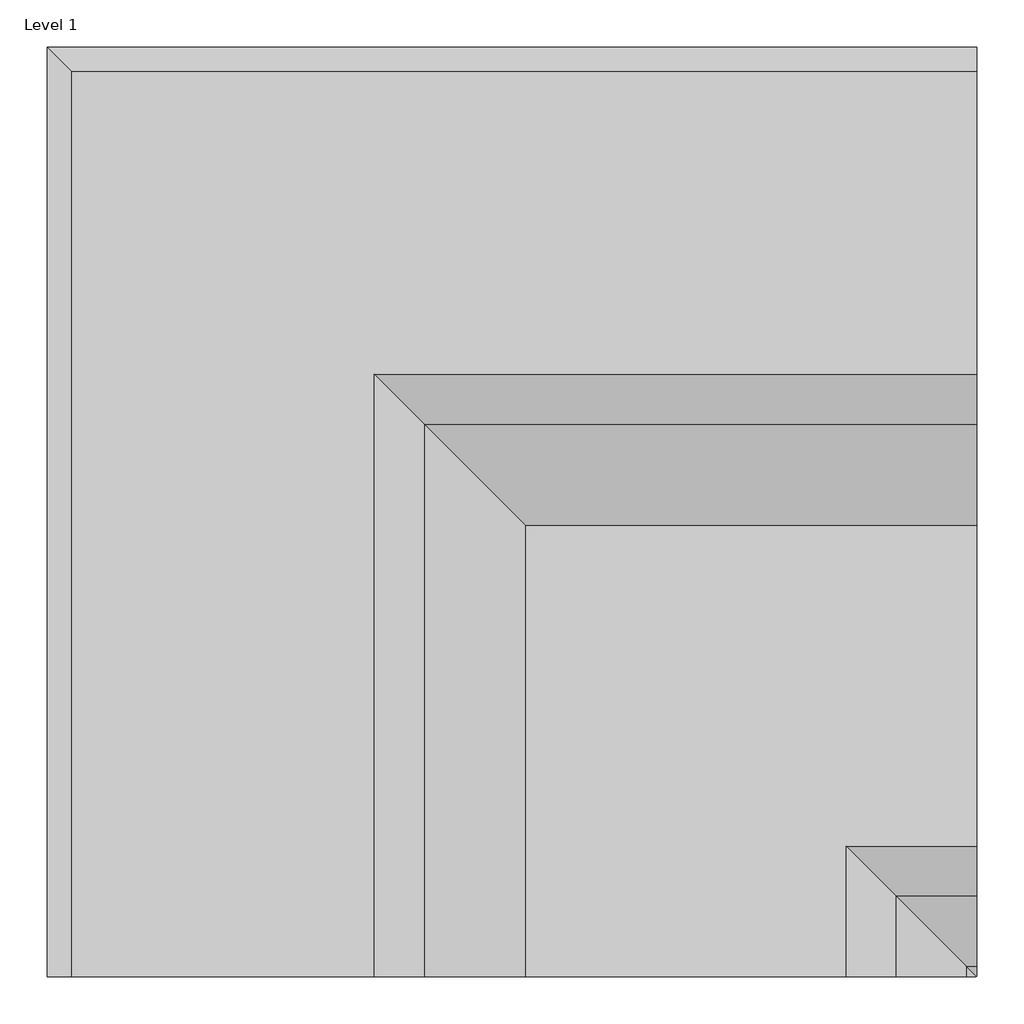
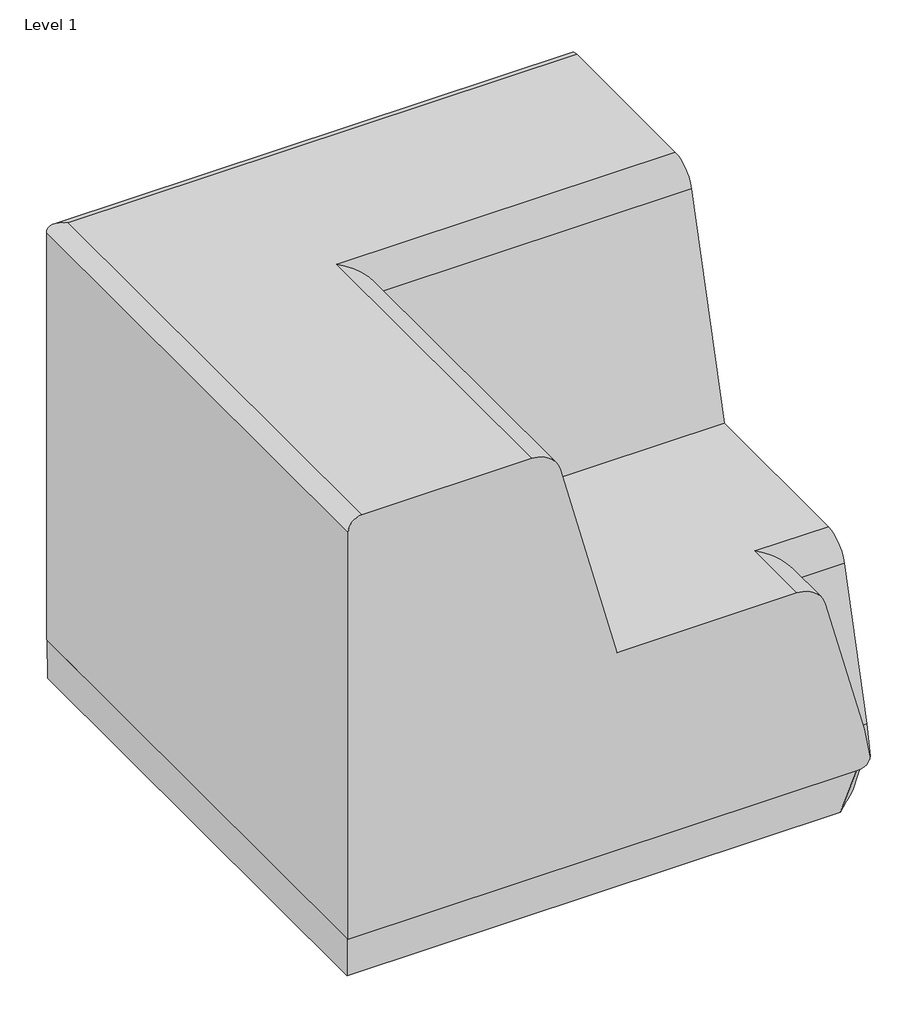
# One storey: 1 furniture element.
"""IFC4 building model written with IfcOpenShell, lengths in millimetres."""

import ifcopenshell
import ifcopenshell.guid

model = None  # the IFC model being written
_history = None  # IfcOwnerHistory: only IFC2X3 demands one
_inside = {}  # id of a spatial element -> (the spatial element, [elements in it])
_under = {}  # id of a project, library or spatial element -> (it, [spatial elements below it])
_declared = {}  # id of a project -> (the project, [libraries it declares])
_typed = {}  # id of a type object -> (the type object, [elements of that type])
_made_of = {}  # id of a material, layer set ... -> (it, [elements and type objects made of it])


def new_model(schema):
    """Start an empty IFC model of exactly this schema.

    Asked for "IFC4X3", IfcOpenShell would pick the latest addendum, in which some entities
    have other attributes; the version numbers below select the first issue.
    IFC2X3 requires an IfcOwnerHistory on every rooted entity: one is made here for all.
    """
    global model, _history
    if schema == "IFC4X3":
        model = ifcopenshell.file(schema_version=(4, 3, 0, 0))
    else:
        model = ifcopenshell.file(schema=schema)
    _inside.clear()
    _under.clear()
    _declared.clear()
    _typed.clear()
    _made_of.clear()
    _history = None
    if model.schema == "IFC2X3":
        org = make("IfcOrganization", Name="unknown")
        user = make(
            "IfcPersonAndOrganization",
            ThePerson=make("IfcPerson", FamilyName="unknown"),
            TheOrganization=org,
        )
        app = make(
            "IfcApplication",
            ApplicationDeveloper=org,
            Version="unknown",
            ApplicationFullName="unknown",
            ApplicationIdentifier="unknown",
        )
        _history = make(
            "IfcOwnerHistory",
            OwningUser=user,
            OwningApplication=app,
            ChangeAction="ADDED",
            CreationDate=0,
        )
    return model


def make(cls, **values):
    """One entity of the class cls with the attributes given. An attribute that is None is left unset."""
    return model.create_entity(
        cls, **{name: value for name, value in values.items() if value is not None}
    )


def rooted(cls, **values):
    """An entity with a GlobalId (a new one), such as an element, a storey or a relation."""
    return make(cls, GlobalId=ifcopenshell.guid.new(), OwnerHistory=_history, **values)


def si_unit(unit_type, name, prefix=None):
    """IfcSIUnit, for example si_unit("LENGTHUNIT", "METRE", prefix="MILLI")."""
    return make("IfcSIUnit", UnitType=unit_type, Prefix=prefix, Name=name)


def assignment(units):
    """IfcUnitAssignment: the units of a project."""
    return None if units is None else make("IfcUnitAssignment", Units=units)


def point(xyz):
    """IfcCartesianPoint."""
    return None if xyz is None else make("IfcCartesianPoint", Coordinates=xyz)


def direction(xyz):
    """IfcDirection."""
    return None if xyz is None else make("IfcDirection", DirectionRatios=xyz)


def frame(location, z_axis=None, x_axis=None):
    """IfcAxis2Placement3D, a coordinate frame: its origin and axes. An axis left out is left unset."""
    return make(
        "IfcAxis2Placement3D",
        Location=point(location),
        Axis=direction(z_axis),
        RefDirection=direction(x_axis),
    )


def origin():
    """The frame at (0, 0, 0) with its axes left unset."""
    return frame((0.0, 0.0, 0.0))


def place(relative_to, where):
    """IfcLocalPlacement: puts the frame where relative to a parent placement (None: the world)."""
    return make(
        "IfcLocalPlacement", PlacementRelTo=relative_to, RelativePlacement=where
    )


def context(
    kind, dimensions, precision=None, world=None, true_north=None, identifier=None
):
    """IfcGeometricRepresentationContext, for example the 3D "Model" context."""
    return make(
        "IfcGeometricRepresentationContext",
        ContextIdentifier=identifier,
        ContextType=kind,
        CoordinateSpaceDimension=dimensions,
        Precision=precision,
        WorldCoordinateSystem=world,
        TrueNorth=true_north,
    )


def project(units=None, contexts=None):
    """IfcProject with its units and contexts."""
    return rooted(
        "IfcProject",
        Name="project",
        RepresentationContexts=contexts,
        UnitsInContext=assignment(units),
    )


def spatial(cls, under=None, at=None, **own):
    """A site, building, storey or space (cls), placed at a placement, below another one or the project."""
    s = rooted(cls, ObjectPlacement=at, **own)
    if under is not None:
        _under.setdefault(under.id(), (under, []))[1].append(s)
    return s


def circle_curve(where, radius):
    """IfcCircle in the frame where."""
    return make("IfcCircle", Position=where, Radius=radius)


def ellipse_curve(where, semi_axis1, semi_axis2):
    """IfcEllipse in the frame where."""
    return make(
        "IfcEllipse", Position=where, SemiAxis1=semi_axis1, SemiAxis2=semi_axis2
    )


def shape(context_of_items, identifier, shape_type, items):
    """IfcShapeRepresentation: the items that make up one representation, for example the "Body"."""
    return make(
        "IfcShapeRepresentation",
        ContextOfItems=context_of_items,
        RepresentationIdentifier=identifier,
        RepresentationType=shape_type,
        Items=items,
    )


def source(mapping_origin, context_of_items, identifier, shape_type, items):
    """IfcRepresentationMap: a shape defined once, which mapped items show again and again."""
    return make(
        "IfcRepresentationMap",
        MappingOrigin=mapping_origin,
        MappedRepresentation=shape(context_of_items, identifier, shape_type, items),
    )


def transform(
    local_origin,
    x_axis=None,
    y_axis=None,
    z_axis=None,
    scale=None,
    scale2=None,
    scale3=None,
    uniform=True,
):
    """IfcCartesianTransformationOperator3D, or its non-uniform kind. x_axis, y_axis, z_axis: its Axis1, 2, 3."""
    if uniform:
        return make(
            "IfcCartesianTransformationOperator3D",
            Axis1=direction(x_axis),
            Axis2=direction(y_axis),
            LocalOrigin=point(local_origin),
            Scale=scale,
            Axis3=direction(z_axis),
        )
    return make(
        "IfcCartesianTransformationOperator3DnonUniform",
        Axis1=direction(x_axis),
        Axis2=direction(y_axis),
        LocalOrigin=point(local_origin),
        Scale=scale,
        Axis3=direction(z_axis),
        Scale2=scale2,
        Scale3=scale3,
    )


def mapped(mapping_source, mapping_target):
    """IfcMappedItem: shows the shape of a source again, moved by a transform."""
    return make(
        "IfcMappedItem", MappingSource=mapping_source, MappingTarget=mapping_target
    )


def made_of(thing, what):
    """Note that an element or type object is made of a material, layer set ...; save() writes the relation."""
    if what is not None:
        _made_of.setdefault(what.id(), (what, []))[1].append(thing)
    return thing


def element(
    cls,
    number,
    at=None,
    inside=None,
    cuts=None,
    type_object=None,
    material=None,
    context=None,
    identifier="Body",
    shape_type=None,
    held_by="IfcProductDefinitionShape",
    body=None,
    shapes=None,
    **own,
):
    """One element of the class cls, such as IfcWall. Its Tag is "e" and its number.

    at: its placement. inside: the storey or other place that contains it. cuts: it is an
    opening in that element (IfcRelVoidsElement). A single representation is given by context,
    identifier, shape_type and body (its items); several are given by shapes. held_by: the class
    of the entity that holds the representations. save() writes the other relations.
    """
    e = rooted(cls, Tag="e%d" % number, ObjectPlacement=at, **own)
    if body is not None:
        shapes = [shape(context, identifier, shape_type, body)]
    if shapes is not None:
        e.Representation = make(held_by, Representations=shapes)
    if inside is not None:
        _inside.setdefault(inside.id(), (inside, []))[1].append(e)
    if cuts is not None:
        rooted(
            "IfcRelVoidsElement", RelatingBuildingElement=cuts, RelatedOpeningElement=e
        )
    if type_object is not None:
        _typed.setdefault(type_object.id(), (type_object, []))[1].append(e)
    return made_of(e, material)


def aggregate(whole, parts):
    """IfcRelAggregates: a whole, such as a stair, and the parts it consists of."""
    return rooted("IfcRelAggregates", RelatingObject=whole, RelatedObjects=parts)


def save(model, path):
    """Write the relations noted so far, then the file.

    IfcRelAggregates (storeys below a building ...), IfcRelContainedInSpatialStructure (elements
    in a storey), IfcRelDefinesByType, IfcRelAssociatesMaterial and IfcRelDeclares: one each for
    every whole, place, type object, material and project.
    """
    for whole, parts in _under.values():
        aggregate(whole, parts)
    for where, things in _inside.values():
        rooted(
            "IfcRelContainedInSpatialStructure",
            RelatedElements=things,
            RelatingStructure=where,
        )
    for kind, things in _typed.values():
        rooted("IfcRelDefinesByType", RelatedObjects=things, RelatingType=kind)
    for what, things in _made_of.values():
        rooted("IfcRelAssociatesMaterial", RelatedObjects=things, RelatingMaterial=what)
    for by, libraries in _declared.values():
        rooted("IfcRelDeclares", RelatingContext=by, RelatedDefinitions=libraries)
    model.write(path)


def plane_surface(at):
    """IfcPlane: the flat surface through the origin of the frame at, square to its z axis."""
    return make("IfcPlane", Position=at)


def cylinder_surface(at, radius):
    """IfcCylindricalSurface: all points at the distance radius from the z axis of the frame at."""
    return make("IfcCylindricalSurface", Position=at, Radius=radius)


def spline_surface(u_degree, v_degree, points, u_multiplicities, v_multiplicities, u_knots, v_knots, weights=None):
    """IfcBSplineSurfaceWithKnots; with weights, IfcRationalBSplineSurfaceWithKnots. points: one row for each step in u."""
    own = dict(
        UDegree=u_degree,
        VDegree=v_degree,
        ControlPointsList=[[point(p) for p in row] for row in points],
        SurfaceForm="UNSPECIFIED",
        UClosed=False,
        VClosed=False,
        SelfIntersect=False,
        UMultiplicities=u_multiplicities,
        VMultiplicities=v_multiplicities,
        UKnots=u_knots,
        VKnots=v_knots,
        KnotSpec="UNSPECIFIED",
    )
    if weights is None:
        return make("IfcBSplineSurfaceWithKnots", **own)
    return make("IfcRationalBSplineSurfaceWithKnots", WeightsData=weights, **own)


def advanced_brep(points, edges, surfaces, faces):
    """IfcAdvancedBrep: a solid bounded by faces that lie on surfaces and meet in shared edges.

    An edge is (start, end): straight between two places in points (the first is 0);
    or (start, end, curve); or (start, end, curve, False) where it runs against its curve.
    A face is (place in surfaces, loops), or (place, loops, False) where it looks against
    its surface's normal. A loop lists edges by number (the first is 1), with a minus sign
    where the edge is run from its end to its start. The first loop is the outer one.
    """
    corners = [point(p) for p in points]
    vertices = [make("IfcVertexPoint", VertexGeometry=c) for c in corners]
    made = []
    for start, end, *more in edges:
        made.append(
            make(
                "IfcEdgeCurve",
                EdgeStart=vertices[start],
                EdgeEnd=vertices[end],
                EdgeGeometry=more[0] if more else make("IfcPolyline", Points=[corners[start], corners[end]]),
                SameSense=more[1] if len(more) > 1 else True,
            )
        )
    hull = []
    for where, loops, *sense in faces:
        bounds = []
        for j, loop in enumerate(loops):
            ring = [make("IfcOrientedEdge", EdgeElement=made[abs(k) - 1], Orientation=k > 0) for k in loop]
            bounds.append(
                make(
                    "IfcFaceOuterBound" if j == 0 else "IfcFaceBound",
                    Bound=make("IfcEdgeLoop", EdgeList=ring),
                    Orientation=True,
                )
            )
        hull.append(make("IfcAdvancedFace", Bounds=bounds, FaceSurface=surfaces[where], SameSense=sense[0] if sense else True))
    return make("IfcAdvancedBrep", Outer=make("IfcClosedShell", CfsFaces=hull))


def tm_2ic_fa0f0d10(model_context):
    return source(origin(), model_context, "Body", "AdvancedBrep", [
        advanced_brep(
        [(-3.406616, 985.1735232, 75.6051946), (-986.0645193, 985.1735232, 75.6051946), (-986.0645193, 5.2568469, 75.6051946), (-21.5303515, 5.2568469, 75.6051946), (-3.406616, 20.4644667, 75.6051946), (-4.8032676, 983.7732961, 0.0), (-4.8032676, 49.1569945, 0.0), (-54.0575485, 5.2493754, 0.0), (-986.0645193, 5.2493754, 0.0), (-986.0645193, 983.7732961, 0.0)],
        [
            (0, 1),
            (1, 2),
            (2, 3),
            (3, 4),
            (4, 0),
            (5, 6),
            (6, 7),
            (7, 8),
            (8, 9),
            (9, 5),
            (9, 1),
            (0, 5),
            (8, 2),
            (7, 3),
            (6, 4),
        ],
        [
            plane_surface(frame((-400.0945244, 400.2650414, 75.6051946), z_axis=(0.0, 0.0, 1.0), x_axis=(-1.0, 0.0, 0.0))),
            plane_surface(frame((-407.1586244, 405.4404675, 0.0), z_axis=(0.0, 0.0, -1.0), x_axis=(-1.0, 0.0, 0.0))),
            plane_surface(frame((-495.4338934, 983.7732961, 0.0), z_axis=(0.0, 0.9998285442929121, -0.018517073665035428), x_axis=(-1.0, 0.0, 0.0))),
            plane_surface(frame((-986.0645193, 494.5113357, 0.0), z_axis=(-1.0, 0.0, 0.0), x_axis=(0.0, -1.0, 0.0))),
            plane_surface(frame((-520.0610339, 5.2493754, 0.0), z_axis=(0.0, -0.9999999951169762, 9.882331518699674e-05), x_axis=(1.0, 0.0, 0.0))),
            spline_surface(1, 1, [[(-54.0575485, 5.2493754, 0.0), (-21.5303515, 5.2568469, 75.6051946)], [(-4.8032676, 49.1569945, 0.0), (-3.406616, 20.4644667, 75.6051946)]], [2, 2], [2, 2], [0.0, 1.0], [0.0, 1.0]),
            plane_surface(frame((-4.8032676, 516.4651453, 0.0), z_axis=(0.9998294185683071, 0.0, -0.01846980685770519), x_axis=(0.0, 1.0, 0.0))),
        ],
        [
            (0, [[1, 2, 3, 4, 5]]),
            (1, [[6, 7, 8, 9, 10]]),
            (2, [[-10, 11, -1, 12]]),
            (3, [[-9, 13, -2, -11]]),
            (4, [[-8, 14, -3, -13]]),
            (5, [[-7, 15, -4, -14]]),
            (6, [[-6, -12, -5, -15]]),
        ],
    ),
        advanced_brep(
        [(-11.2667788, 0.0, 153.7624342), (-85.2845167, 0.0, 429.7596026), (-138.6044472, 0.0, 470.6641871), (-478.7838657, 0.0, 470.6641871), (-585.9252085, 0.0, 873.4061484), (-639.2735817, 0.0, 914.4177798), (-960.8043941, 0.0, 914.4177798), (-986.7837328, 0.0, 888.4384411), (-986.7837328, 0.0, 76.2), (-23.5752551, 0.0, 76.2), (-10.4396687, 0.0, 79.8602583), (-0.8310155, 0.0, 95.6885473), (0.0, 11.2560699, 153.7624342), (0.0, 0.8203066, 95.6885473), (0.0, 10.4289598, 79.8602583), (0.0, 23.5645463, 76.2), (0.0, 986.7730239, 76.2), (0.0, 986.7730239, 888.4384411), (0.0, 960.7936852, 914.4177798), (0.0, 639.2628728, 914.4177798), (0.0, 585.9144997, 873.4061484), (0.0, 478.7731568, 470.6641871), (0.0, 138.5937383, 470.6641871), (0.0, 85.2738079, 429.7596026), (-11.2667788, 11.2560699, 153.7624342), (-85.2845167, 85.2738079, 429.7596026), (-138.6044472, 138.5937383, 470.6641871), (-478.7838657, 478.7731568, 470.6641871), (-585.9252085, 585.9144997, 873.4061484), (-639.2735817, 639.2628728, 914.4177798), (-960.8043941, 960.7936852, 914.4177798), (-986.7837328, 986.7730239, 888.4384411), (-986.7837328, 986.7730239, 76.2), (-23.5752551, 23.5645463, 76.2), (-10.4396687, 10.4289598, 79.8602583), (-0.8310155, 0.8203066, 95.6885473)],
        [
            (0, 1),
            (1, 2, circle_curve(frame((-138.6044472, 0.0, 415.4601058), z_axis=(0.0, -1.0, 0.0), x_axis=(-1.0, 0.0, 0.0)), 55.2040813)),
            (2, 3),
            (3, 4),
            (4, 5, circle_curve(frame((-639.2735817, 0.0, 859.2138941), z_axis=(0.0, -1.0, 0.0), x_axis=(-1.0, 0.0, 0.0)), 55.2038857)),
            (5, 6),
            (6, 7, circle_curve(frame((-960.8043941, 0.0, 888.4384411), z_axis=(0.0, -1.0, 0.0), x_axis=(-1.0, 0.0, 0.0)), 25.9793387)),
            (7, 8),
            (8, 9),
            (9, 10, circle_curve(frame((-23.5752551, 0.0, 101.6), z_axis=(0.0, -1.0, 0.0), x_axis=(-1.0, 0.0, 0.0)), 25.4)),
            (10, 11, circle_curve(frame((-20.7745368, 0.0, 96.9647374), z_axis=(0.0, -1.0, 0.0), x_axis=(-1.0, 0.0, 0.0)), 19.9843114)),
            (11, 0, circle_curve(frame((-350.0203653, 0.0, 62.9144942), z_axis=(0.0, -1.0, 0.0), x_axis=(-1.0, 0.0, 0.0)), 350.7240234)),
            (12, 13, circle_curve(frame((0.0, 350.0096565, 62.9144942), z_axis=(1.0, 0.0, 0.0), x_axis=(0.0, 1.0, 0.0)), 350.7240234)),
            (13, 14, circle_curve(frame((0.0, 20.7638279, 96.9647374), z_axis=(1.0, 0.0, 0.0), x_axis=(0.0, 1.0, 0.0)), 19.9843114)),
            (14, 15, circle_curve(frame((0.0, 23.5645463, 101.6), z_axis=(1.0, 0.0, 0.0), x_axis=(0.0, 1.0, 0.0)), 25.4)),
            (15, 16),
            (16, 17),
            (17, 18, circle_curve(frame((0.0, 960.7936852, 888.4384411), z_axis=(1.0, 0.0, 0.0), x_axis=(0.0, 1.0, 0.0)), 25.9793387)),
            (18, 19),
            (19, 20, circle_curve(frame((0.0, 639.2628728, 859.2138941), z_axis=(1.0, 0.0, 0.0), x_axis=(0.0, 1.0, 0.0)), 55.2038857)),
            (20, 21),
            (21, 22),
            (22, 23, circle_curve(frame((0.0, 138.5937383, 415.4601058), z_axis=(1.0, 0.0, 0.0), x_axis=(0.0, 1.0, 0.0)), 55.2040813)),
            (23, 12),
            (0, 24),
            (24, 25),
            (25, 1),
            (25, 26, ellipse_curve(frame((-138.6044472, 138.5937383, 415.4601058), z_axis=(-0.707106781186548, -0.7071067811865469, 0.0), x_axis=(0.7071067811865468, -0.7071067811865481, 0.0)), 78.0703605, 55.2040813)),
            (26, 2),
            (26, 22),
            (21, 27),
            (27, 3),
            (27, 28),
            (28, 4),
            (28, 29, ellipse_curve(frame((-639.2735817, 639.2628728, 859.2138941), z_axis=(-0.707106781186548, -0.7071067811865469, 0.0), x_axis=(0.7071067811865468, -0.7071067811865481, 0.0)), 78.0700839, 55.2038857)),
            (29, 5),
            (29, 19),
            (18, 30),
            (30, 6),
            (30, 31, ellipse_curve(frame((-960.8043941, 960.7936852, 888.4384411), z_axis=(-0.707106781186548, -0.7071067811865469, 0.0), x_axis=(0.7071067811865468, -0.7071067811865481, 0.0)), 36.7403332, 25.9793387)),
            (31, 7),
            (31, 32),
            (32, 8),
            (32, 16),
            (15, 33),
            (33, 9),
            (33, 34, ellipse_curve(frame((-23.5752551, 23.5645463, 101.6), z_axis=(-0.707106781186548, -0.7071067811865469, 0.0), x_axis=(0.7071067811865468, -0.7071067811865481, 0.0)), 35.9210245, 25.4)),
            (34, 10),
            (34, 35, ellipse_curve(frame((-20.7745368, 20.7638279, 96.9647374), z_axis=(-0.707106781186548, -0.7071067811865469, 0.0), x_axis=(0.7071067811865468, -0.7071067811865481, 0.0)), 28.2620843, 19.9843114)),
            (35, 11),
            (35, 24, ellipse_curve(frame((-350.0203653, 350.0096565, 62.9144942), z_axis=(-0.707106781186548, -0.7071067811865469, 0.0), x_axis=(0.7071067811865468, -0.7071067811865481, 0.0)), 495.9986706, 350.7240234)),
            (24, 12),
            (23, 25),
            (20, 28),
            (17, 31),
            (14, 34),
            (13, 35),
        ],
        [
            plane_surface(frame((-0.8310155, 0.0, 0.0), z_axis=(0.0, -1.0, 0.0), x_axis=(0.0, 0.0, 1.0))),
            plane_surface(frame((0.0, 0.8203066, 0.0), z_axis=(1.0, 0.0, 0.0), x_axis=(0.0, 0.0, 1.0))),
            plane_surface(frame((-11.2667788, 0.0, 153.7624342), z_axis=(0.9658693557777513, 0.0, 0.2590297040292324), x_axis=(0.0, 1.0, 0.0))),
            cylinder_surface(frame((-138.6044472, 0.0, 415.4601058), z_axis=(0.0, -1.0, 0.0), x_axis=(-1.0, 0.0, 0.0)), 55.2040813),
            plane_surface(frame((-138.6044472, 0.0, 470.6641871), z_axis=(0.0, 0.0, 1.0), x_axis=(0.0, 1.0, 0.0))),
            plane_surface(frame((-478.7838657, 0.0, 470.6641871), z_axis=(0.9663880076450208, 0.0, 0.25708795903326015), x_axis=(0.0, 1.0, 0.0))),
            cylinder_surface(frame((-639.2735817, 0.0, 859.2138941), z_axis=(0.0, -1.0, 0.0), x_axis=(-1.0, 0.0, 0.0)), 55.2038857),
            plane_surface(frame((-639.2735817, 0.0, 914.4177798), z_axis=(0.0, 0.0, 1.0), x_axis=(0.0, 1.0, 0.0))),
            cylinder_surface(frame((-960.8043941, 0.0, 888.4384411), z_axis=(0.0, -1.0, 0.0), x_axis=(-1.0, 0.0, 0.0)), 25.9793387),
            plane_surface(frame((-986.7837328, 0.0, 888.4384411), z_axis=(-1.0, 0.0, 0.0), x_axis=(0.0, 1.0, 0.0))),
            plane_surface(frame((-986.7837328, 0.0, 76.2), z_axis=(0.0, 0.0, -1.0), x_axis=(0.0, 1.0, 0.0))),
            cylinder_surface(frame((-23.5752551, 0.0, 101.6), z_axis=(0.0, -1.0, 0.0), x_axis=(-1.0, 0.0, 0.0)), 25.4),
            cylinder_surface(frame((-20.7745368, 0.0, 96.9647374), z_axis=(0.0, -1.0, 0.0), x_axis=(-1.0, 0.0, 0.0)), 19.9843114),
            cylinder_surface(frame((-350.0203653, 0.0, 62.9144942), z_axis=(0.0, -1.0, 0.0), x_axis=(-1.0, 0.0, 0.0)), 350.7240234),
            plane_surface(frame((-11.2667788, 11.2560699, 153.7624342), z_axis=(0.0, -0.9658693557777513, 0.2590297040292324), x_axis=(1.0, 0.0, 0.0))),
            cylinder_surface(frame((-0.8310155, 138.5937383, 415.4601058), z_axis=(-1.0, 0.0, 0.0), x_axis=(0.0, 1.0, 0.0)), 55.2040813),
            plane_surface(frame((-478.7838657, 478.7731568, 470.6641871), z_axis=(0.0, -0.9663880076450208, 0.25708795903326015), x_axis=(1.0, 0.0, 0.0))),
            cylinder_surface(frame((-0.8310155, 639.2628728, 859.2138941), z_axis=(-1.0, 0.0, 0.0), x_axis=(0.0, 1.0, 0.0)), 55.2038857),
            cylinder_surface(frame((-0.8310155, 960.7936852, 888.4384411), z_axis=(-1.0, 0.0, 0.0), x_axis=(0.0, 1.0, 0.0)), 25.9793387),
            plane_surface(frame((-986.7837328, 986.7730239, 888.4384411), z_axis=(0.0, 1.0, 0.0), x_axis=(1.0, 0.0, 0.0))),
            cylinder_surface(frame((-0.8310155, 23.5645463, 101.6), z_axis=(-1.0, 0.0, 0.0), x_axis=(0.0, 1.0, 0.0)), 25.4),
            cylinder_surface(frame((-0.8310155, 20.7638279, 96.9647374), z_axis=(-1.0, 0.0, 0.0), x_axis=(0.0, 1.0, 0.0)), 19.9843114),
            cylinder_surface(frame((-0.8310155, 350.0096565, 62.9144942), z_axis=(-1.0, 0.0, 0.0), x_axis=(0.0, 1.0, 0.0)), 350.7240234),
        ],
        [
            (0, [[1, 2, 3, 4, 5, 6, 7, 8, 9, 10, 11, 12]]),
            (1, [[13, 14, 15, 16, 17, 18, 19, 20, 21, 22, 23, 24]]),
            (2, [[-1, 25, 26, 27]]),
            (3, [[-2, -27, 28, 29]]),
            (4, [[-3, -29, 30, -22, 31, 32]]),
            (5, [[-4, -32, 33, 34]]),
            (6, [[-5, -34, 35, 36]]),
            (7, [[-6, -36, 37, -19, 38, 39]]),
            (8, [[-7, -39, 40, 41]]),
            (9, [[-8, -41, 42, 43]]),
            (10, [[-9, -43, 44, -16, 45, 46]]),
            (11, [[-10, -46, 47, 48]]),
            (12, [[-11, -48, 49, 50]]),
            (13, [[-12, -50, 51, -25]]),
            (14, [[-26, 52, -24, 53]]),
            (15, [[-28, -53, -23, -30]]),
            (16, [[-33, -31, -21, 54]]),
            (17, [[-35, -54, -20, -37]]),
            (18, [[-40, -38, -18, 55]]),
            (19, [[-42, -55, -17, -44]]),
            (20, [[-47, -45, -15, 56]]),
            (21, [[-49, -56, -14, 57]]),
            (22, [[-51, -57, -13, -52]]),
        ],
    ),
    ])


model = new_model("IFC4")

# Units and contexts
model_context = context("Model", 3, world=origin())
ifc_project = project(units=[si_unit("LENGTHUNIT", "METRE", prefix="MILLI")], contexts=[model_context])

# Site, building, storey
site = spatial("IfcSite", under=ifc_project)
building = spatial("IfcBuilding", under=site)
storey = spatial("IfcBuildingStorey", under=building, Name="Level 1", Elevation=0.0)

# Furniture
placement = place(None, origin())
tm_2ic_shape = tm_2ic_fa0f0d10(model_context)
element("IfcFurniture", 1, ObjectType="TM21C-CF_Group-Moss_Tier-2_Level-Corner_In : TM-2IC", at=placement, inside=storey, context=model_context, shape_type="MappedRepresentation", body=[
    mapped(tm_2ic_shape, transform((1613.2523522, 2313.2996381, 0.0), x_axis=(1.0, 0.0, 0.0), y_axis=(0.0, 1.0, 0.0), z_axis=(0.0, 0.0, 1.0))),
])

save(model, "model.ifc")
